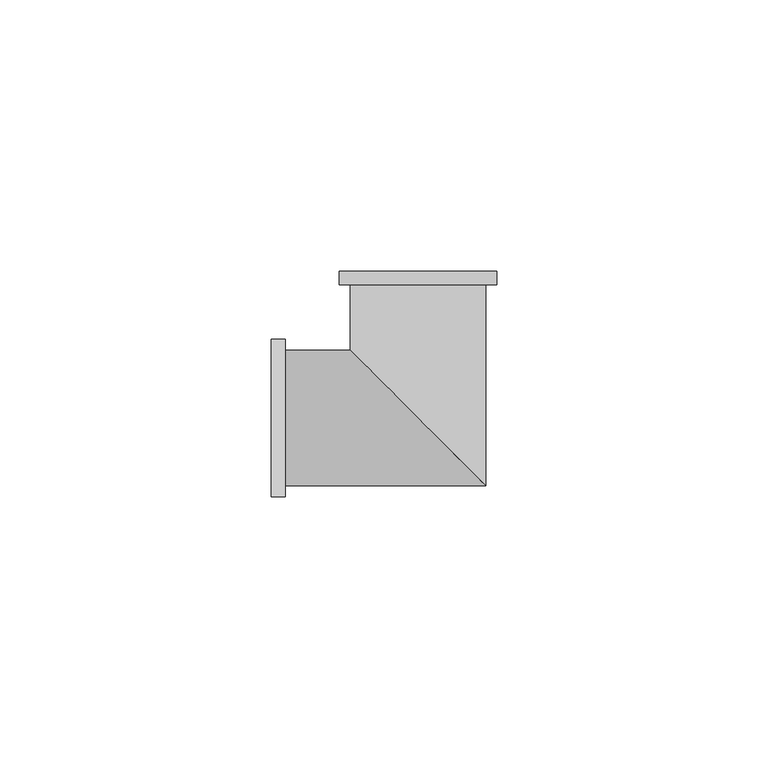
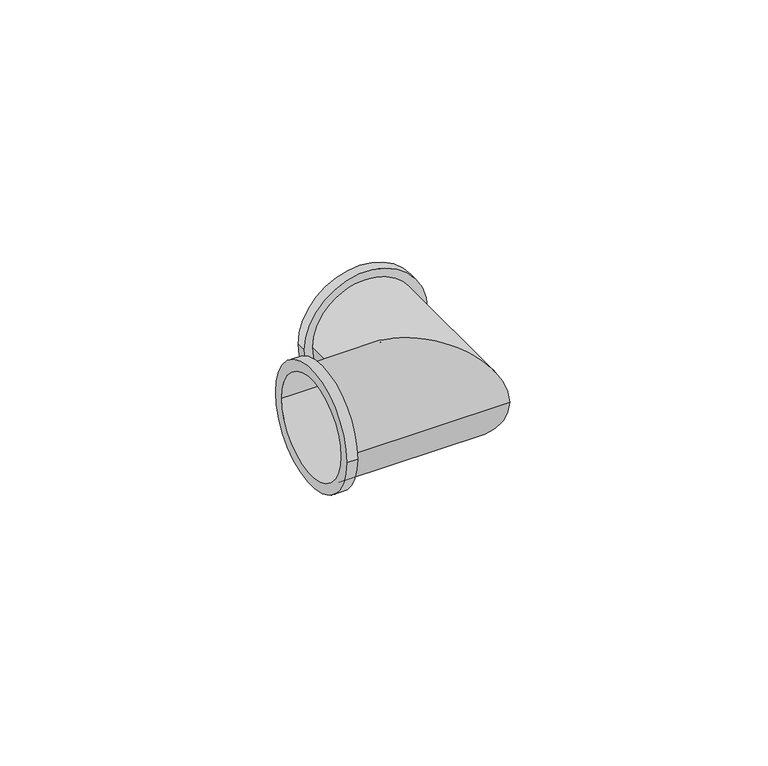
"""IFC4 building model written with IfcOpenShell, lengths in millimetres: pipe fitting geometry, БИР ПЕКС_НПР_Угольник ПЕКС 90 : Угольник ПЕКС 90°."""

from ifc_helpers import new_model, si_unit, frame, origin, place, context, project, spatial, polyline, circle_curve, ellipse_curve, source, transform, mapped, element, save
from ifc_brep_helpers import plane_surface, cylinder_surface, revolved_surface, advanced_brep


def pipe_fitting_0aa18b30(model_context):
    return source(origin(), model_context, "Body", "AdvancedBrep", [
        advanced_brep(
        [(-27.0, -14.5, 0.0), (-27.0, 14.5, 0.0), (-27.0, -12.0, 0.0), (-27.0, 12.0, 0.0), (12.5, -12.5, 0.0), (-12.5, 12.5, 0.0), (-24.4507177, 12.5, 0.0), (-24.4507177, -12.5, 0.0), (-14.5, 27.0, 0.0), (14.5, 27.0, 0.0), (12.0, 27.0, 0.0), (-12.0, 27.0, 0.0), (12.5, 24.5, 0.0), (-12.5, 24.5, 0.0), (-24.4507177, -14.5, 0.0), (-24.4507177, 14.5, 0.0), (-14.5, 24.5, 0.0), (14.5, 24.5, 0.0), (-24.4507177, -12.0, 0.0), (12.0, -12.0, 0.0), (-12.0, 12.0, 0.0), (-24.4507177, 12.0, 0.0), (-12.0, 24.5, 0.0), (12.0, 24.5, 0.0)],
        [
            (0, 1, circle_curve(frame((-27.0, 0.0, 0.0), z_axis=(-1.0, 0.0, 0.0), x_axis=(0.0, 1.0, 0.0)), 14.5)),
            (1, 0, circle_curve(frame((-27.0, 0.0, 0.0), z_axis=(-1.0, 0.0, 0.0), x_axis=(0.0, 1.0, 0.0)), 14.5)),
            (2, 3, circle_curve(frame((-27.0, 0.0, 0.0), z_axis=(1.0, 0.0, 0.0), x_axis=(0.0, 1.0, 0.0)), 12.0)),
            (3, 2, circle_curve(frame((-27.0, 0.0, 0.0), z_axis=(1.0, 0.0, 0.0), x_axis=(0.0, 1.0, 0.0)), 12.0)),
            (4, 5, ellipse_curve(frame((0.0, 0.0, 0.0), z_axis=(-0.7071067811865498, -0.7071067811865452, 0.0), x_axis=(-0.7071067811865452, 0.7071067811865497, 0.0)), 17.6776695, 12.5)),
            (5, 6),
            (6, 7, circle_curve(frame((-24.4507177, 0.0, 0.0), z_axis=(1.0, 0.0, 0.0), x_axis=(0.0, 1.0, 0.0)), 12.5)),
            (7, 4),
            (5, 4, ellipse_curve(frame((0.0, 0.0, 0.0), z_axis=(-0.7071067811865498, -0.7071067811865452, 0.0), x_axis=(-0.7071067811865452, 0.7071067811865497, 0.0)), 17.6776695, 12.5)),
            (7, 6, circle_curve(frame((-24.4507177, 0.0, 0.0), z_axis=(1.0, 0.0, 0.0), x_axis=(0.0, 1.0, 0.0)), 12.5)),
            (8, 9, circle_curve(frame((0.0, 27.0, 0.0), z_axis=(0.0, 1.0, 0.0), x_axis=(1.0, 0.0, 0.0)), 14.5)),
            (9, 8, circle_curve(frame((0.0, 27.0, 0.0), z_axis=(0.0, 1.0, 0.0), x_axis=(1.0, 0.0, 0.0)), 14.5)),
            (10, 11, circle_curve(frame((0.0, 27.0, 0.0), z_axis=(0.0, -1.0, 0.0), x_axis=(-1.0, 0.0, 0.0)), 12.0)),
            (11, 10, circle_curve(frame((0.0, 27.0, 0.0), z_axis=(0.0, -1.0, 0.0), x_axis=(-1.0, 0.0, 0.0)), 12.0)),
            (4, 12),
            (12, 13, circle_curve(frame((0.0, 24.5, 0.0), z_axis=(0.0, -1.0, 0.0), x_axis=(-1.0, 0.0, 0.0)), 12.5)),
            (13, 5),
            (13, 12, circle_curve(frame((0.0, 24.5, 0.0), z_axis=(0.0, -1.0, 0.0), x_axis=(-1.0, 0.0, 0.0)), 12.5)),
            (14, 15, circle_curve(frame((-24.4507177, 0.0, 0.0), z_axis=(1.0, 0.0, 0.0), x_axis=(0.0, 1.0, 0.0)), 14.5)),
            (15, 14, circle_curve(frame((-24.4507177, 0.0, 0.0), z_axis=(1.0, 0.0, 0.0), x_axis=(0.0, 1.0, 0.0)), 14.5)),
            (14, 0),
            (1, 15),
            (16, 17, circle_curve(frame((0.0, 24.5, 0.0), z_axis=(0.0, -1.0, 0.0), x_axis=(1.0, 0.0, 0.0)), 14.5)),
            (17, 16, circle_curve(frame((0.0, 24.5, 0.0), z_axis=(0.0, -1.0, 0.0), x_axis=(1.0, 0.0, 0.0)), 14.5)),
            (16, 8),
            (9, 17),
            (2, 18),
            (18, 19),
            (19, 20, ellipse_curve(frame((0.0, 0.0, 0.0), z_axis=(0.7071067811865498, 0.7071067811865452, 0.0), x_axis=(0.7071067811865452, -0.7071067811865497, 0.0)), 16.9705627, 12.0)),
            (20, 21),
            (21, 3),
            (20, 19, ellipse_curve(frame((0.0, 0.0, 0.0), z_axis=(0.7071067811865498, 0.7071067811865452, 0.0), x_axis=(0.7071067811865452, -0.7071067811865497, 0.0)), 16.9705627, 12.0)),
            (11, 22),
            (22, 20),
            (19, 23),
            (23, 10),
        ],
        [
            plane_surface(frame((-27.0, 0.0, 0.0), z_axis=(-1.0, 0.0, 0.0), x_axis=(0.0, 0.0, 1.0))),
            cylinder_surface(frame((-27.0, 0.0, 0.0), z_axis=(-1.0, 0.0, 0.0), x_axis=(0.0, 1.0, 0.0)), 12.5),
            plane_surface(frame((0.0, 27.0, 0.0), z_axis=(0.0, 1.0, 0.0), x_axis=(0.0, 0.0, 1.0))),
            cylinder_surface(frame((0.0, 0.0, 0.0), z_axis=(0.0, -1.0, 0.0), x_axis=(-1.0, 0.0, 0.0)), 12.5),
            plane_surface(frame((-24.4507177, 14.5, 0.0), z_axis=(1.0, 0.0, 0.0), x_axis=(0.0, 0.0, 1.0))),
            cylinder_surface(frame((-27.0, 0.0, 0.0), z_axis=(1.0, 0.0, 0.0), x_axis=(0.0, 1.0, 0.0)), 14.5),
            plane_surface(frame((14.5, 24.5, 0.0), z_axis=(0.0, -1.0, 0.0), x_axis=(0.0, 0.0, 1.0))),
            cylinder_surface(frame((0.0, 27.0, 0.0), z_axis=(0.0, -1.0, 0.0), x_axis=(1.0, 0.0, 0.0)), 14.5),
            revolved_surface(polyline([(12.0, 12.0, 0.0), (-27.0, 12.0, 0.0)]), (-27.0, 0.0, 0.0), (1.0, 0.0, 0.0)),
            revolved_surface(polyline([(-12.0, 27.0, 0.0), (-12.0, -12.0, 0.0)]), (0.0, 0.0, 0.0), (0.0, 1.0, 0.0)),
        ],
        [
            (0, [[1, 2], [3, 4]]),
            (1, [[5, 6, 7, 8]]),
            (1, [[9, -8, 10, -6]]),
            (2, [[11, 12], [13, 14]]),
            (3, [[-5, 15, 16, 17]]),
            (3, [[-9, -17, 18, -15]]),
            (4, [[19, 20], [-7, -10]]),
            (5, [[-19, 21, -2, 22]]),
            (5, [[-20, -22, -1, -21]]),
            (6, [[23, 24], [-16, -18]]),
            (7, [[-23, 25, -12, 26]]),
            (7, [[-24, -26, -11, -25]]),
            (8, [[-3, 27, 28, 29, 30, 31]]),
            (8, [[-4, -31, -30, 32, -28, -27]]),
            (9, [[-14, 33, 34, -29, 35, 36]]),
            (9, [[-13, -36, -35, -32, -34, -33]]),
        ],
    ),
    ])


if __name__ == "__main__":
    model = new_model("IFC4")
    model_context = context("Model", 3, world=origin())
    ifc_project = project(units=[si_unit("LENGTHUNIT", "METRE", prefix="MILLI")], contexts=[model_context])
    site = spatial("IfcSite", under=ifc_project)
    building = spatial("IfcBuilding", under=site)
    placement = place(None, origin())
    pipe_fitting_shape = pipe_fitting_0aa18b30(model_context)
    element("IfcPipeFitting", 1, ObjectType="БИР ПЕКС_НПР_Угольник ПЕКС 90 : Угольник ПЕКС 90°", at=placement, inside=building, context=model_context, shape_type="MappedRepresentation", body=[
        mapped(pipe_fitting_shape, transform((0.0, 0.0, 0.0), x_axis=(1.0, 0.0, 0.0), y_axis=(0.0, 1.0, 0.0), z_axis=(0.0, 0.0, 1.0))),
    ])
    save(model, "model.ifc")
